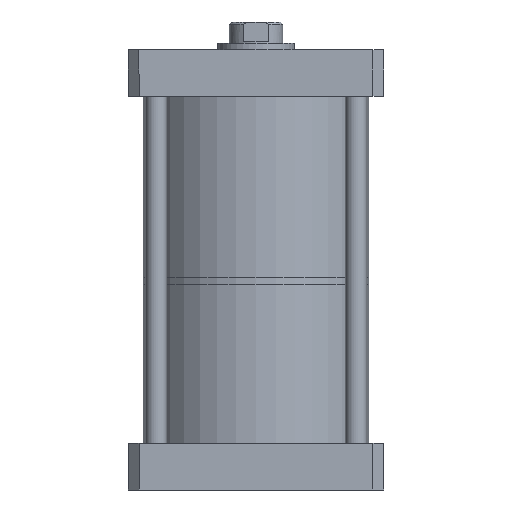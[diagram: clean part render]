
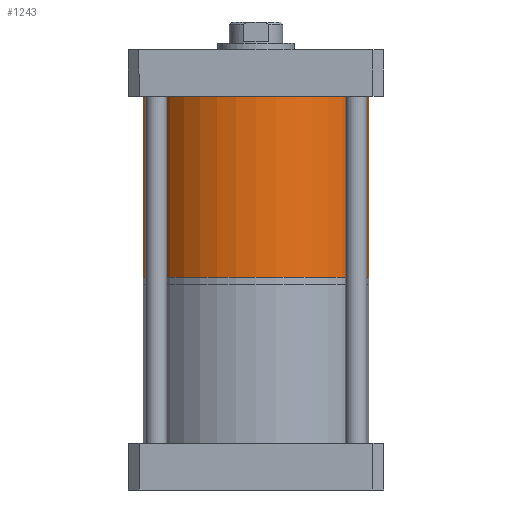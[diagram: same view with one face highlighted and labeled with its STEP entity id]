
A CAD part, front view. The second image highlights one B-rep face of the part: STEP entity #1243.
In plain terms, the highlighted cylindrical face has radius 53 mm (diameter 106 mm), a partial arc.
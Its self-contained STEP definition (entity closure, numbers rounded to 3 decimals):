
#399 = AXIS2_PLACEMENT_3D ( 'NONE', #3202, #1101, #3800 ) ;
#504 = CARTESIAN_POINT ( 'NONE',  ( 24.746, 0., -85. ) ) ;
#762 = VERTEX_POINT ( 'NONE', #1093 ) ;
#791 = EDGE_CURVE ( 'NONE', #1281, #1457, #3327, .T. ) ;
#813 = DIRECTION ( 'NONE',  ( -1., 0., 0. ) ) ;
#876 = AXIS2_PLACEMENT_3D ( 'NONE', #1054, #3147, #1347 ) ;
#925 = CARTESIAN_POINT ( 'NONE',  ( -28.254, 0., -85. ) ) ;
#1045 = EDGE_CURVE ( 'NONE', #1281, #762, #3788, .T. ) ;
#1054 = CARTESIAN_POINT ( 'NONE',  ( 24.746, 0., 0. ) ) ;
#1085 = ORIENTED_EDGE ( 'NONE', *, *, #1045, .T. ) ;
#1093 = CARTESIAN_POINT ( 'NONE',  ( 77.746, 0., 0. ) ) ;
#1101 = DIRECTION ( 'NONE',  ( 0., 0., 1. ) ) ;
#1130 = DIRECTION ( 'NONE',  ( 0., 0., 1. ) ) ;
#1243 = ADVANCED_FACE ( 'NONE', ( #2899 ), #3616, .T. ) ;
#1281 = VERTEX_POINT ( 'NONE', #3215 ) ;
#1288 = VERTEX_POINT ( 'NONE', #2639 ) ;
#1329 = ORIENTED_EDGE ( 'NONE', *, *, #3520, .T. ) ;
#1347 = DIRECTION ( 'NONE',  ( -1., 0., 0. ) ) ;
#1457 = VERTEX_POINT ( 'NONE', #925 ) ;
#1784 = VECTOR ( 'NONE', #1130, 1000. ) ;
#1949 = EDGE_LOOP ( 'NONE', ( #2887, #2988, #1085, #1329 ) ) ;
#2405 = EDGE_CURVE ( 'NONE', #1457, #1288, #2488, .T. ) ;
#2435 = AXIS2_PLACEMENT_3D ( 'NONE', #504, #2608, #813 ) ;
#2488 = LINE ( 'NONE', #2923, #1784 ) ;
#2608 = DIRECTION ( 'NONE',  ( 0., 0., -1. ) ) ;
#2639 = CARTESIAN_POINT ( 'NONE',  ( -28.254, 0., 0. ) ) ;
#2788 = CARTESIAN_POINT ( 'NONE',  ( 77.746, 0., -85. ) ) ;
#2887 = ORIENTED_EDGE ( 'NONE', *, *, #2405, .F. ) ;
#2899 = FACE_OUTER_BOUND ( 'NONE', #1949, .T. ) ;
#2923 = CARTESIAN_POINT ( 'NONE',  ( -28.254, 0., -85. ) ) ;
#2988 = ORIENTED_EDGE ( 'NONE', *, *, #791, .F. ) ;
#3044 = CIRCLE ( 'NONE', #876, 53. ) ;
#3091 = DIRECTION ( 'NONE',  ( 0., 0., 1. ) ) ;
#3147 = DIRECTION ( 'NONE',  ( 0., 0., -1. ) ) ;
#3202 = CARTESIAN_POINT ( 'NONE',  ( 24.746, 0., -85. ) ) ;
#3215 = CARTESIAN_POINT ( 'NONE',  ( 77.746, 0., -85. ) ) ;
#3327 = CIRCLE ( 'NONE', #2435, 53. ) ;
#3520 = EDGE_CURVE ( 'NONE', #762, #1288, #3044, .T. ) ;
#3616 = CYLINDRICAL_SURFACE ( 'NONE', #399, 53. ) ;
#3701 = VECTOR ( 'NONE', #3091, 1000. ) ;
#3788 = LINE ( 'NONE', #2788, #3701 ) ;
#3800 = DIRECTION ( 'NONE',  ( 1., 0., 0. ) ) ;
